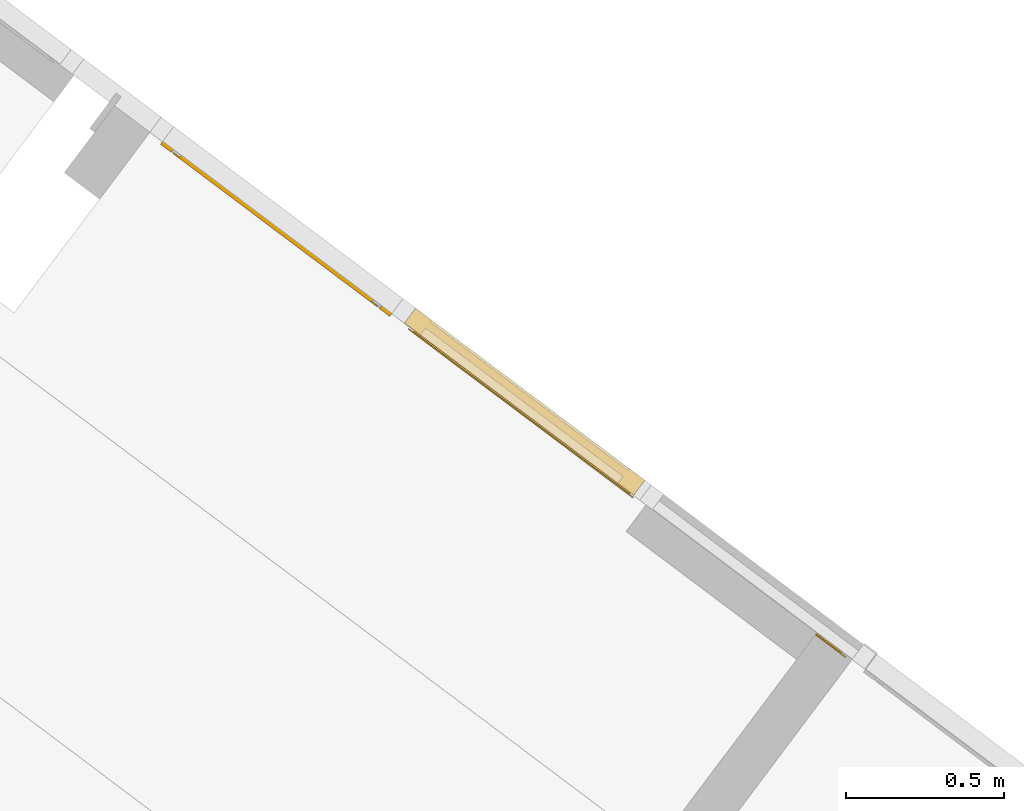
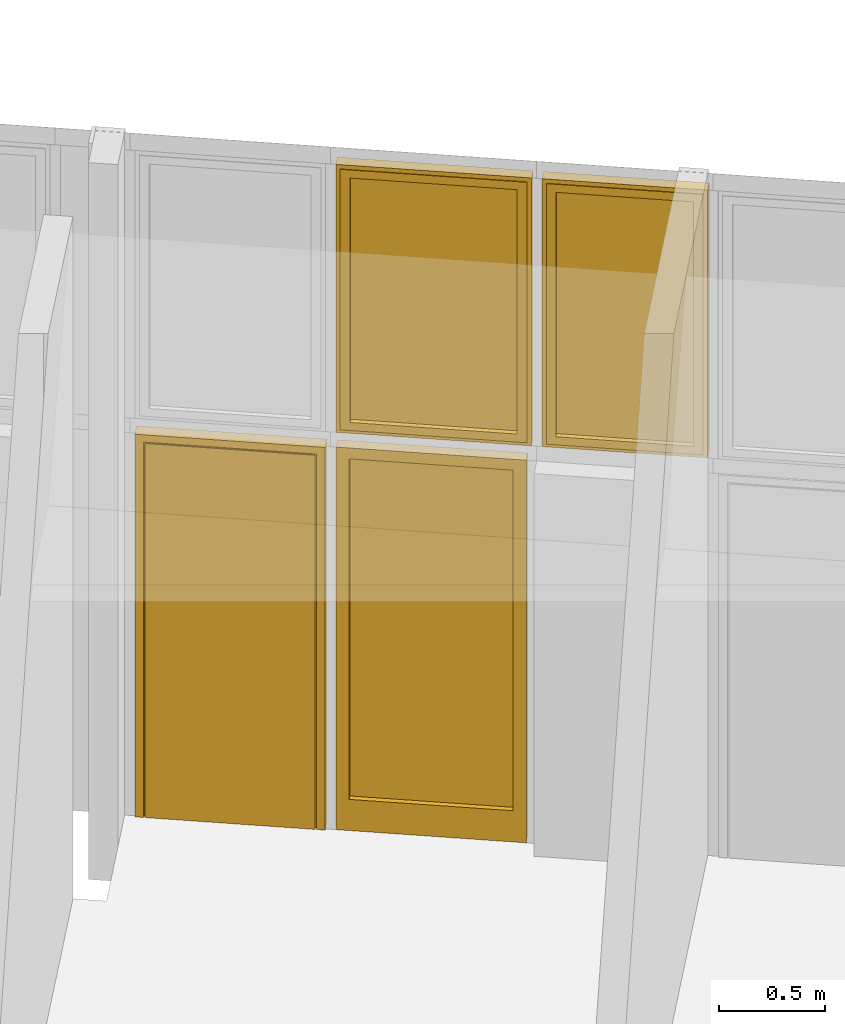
# One storey, part 15 of 18: 3 windows, 1 door, 2 elements without a shape of their own.
"""IFC2X3 building model written with IfcOpenShell, lengths in metres."""

from ifc_helpers import new_model, entity, si_unit, converted_unit, derived_unit, direction, frame, origin, place, context, subcontext, project, spatial, faceted_brep, source, transform, mapped, material, material_list, type_object, type_shapes, element, aggregate, save


model = new_model("IFC2X3")

# Units and contexts
model_context = context("Model", 3, precision=1e-05, world=origin(), true_north=direction((6.123031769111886e-17, 1.0)))
body_context = subcontext(model_context, "Body", "Model", "MODEL_VIEW")
ifc_project = project(units=[si_unit("LENGTHUNIT", "METRE"), si_unit("AREAUNIT", "SQUARE_METRE"), si_unit("VOLUMEUNIT", "CUBIC_METRE"), converted_unit("PLANEANGLEUNIT", "DEGREE", entity("IfcRatioMeasure", 0.017453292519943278), si_unit("PLANEANGLEUNIT", "RADIAN"), dimensions=[0, 0, 0, 0, 0, 0, 0]), si_unit("MASSUNIT", "GRAM", prefix="KILO"), derived_unit("MASSDENSITYUNIT", [(si_unit("MASSUNIT", "GRAM", prefix="KILO"), 1), (si_unit("LENGTHUNIT", "METRE"), -3)]), derived_unit("IONCONCENTRATIONUNIT", [(si_unit("MASSUNIT", "GRAM", prefix="KILO"), 1), (si_unit("LENGTHUNIT", "METRE"), -3)]), derived_unit("MOMENTOFINERTIAUNIT", [(si_unit("LENGTHUNIT", "METRE"), 4)]), si_unit("TIMEUNIT", "SECOND"), si_unit("FREQUENCYUNIT", "HERTZ"), si_unit("THERMODYNAMICTEMPERATUREUNIT", "DEGREE_CELSIUS"), derived_unit("THERMALTRANSMITTANCEUNIT", [(si_unit("MASSUNIT", "GRAM", prefix="KILO"), 1), (si_unit("THERMODYNAMICTEMPERATUREUNIT", "KELVIN"), -1), (si_unit("TIMEUNIT", "SECOND"), -3)]), derived_unit("THERMALCONDUCTANCEUNIT", [(si_unit("MASSUNIT", "GRAM", prefix="KILO"), 1), (si_unit("THERMODYNAMICTEMPERATUREUNIT", "KELVIN"), -1), (si_unit("TIMEUNIT", "SECOND"), -3), (si_unit("LENGTHUNIT", "METRE"), 1)]), derived_unit("VOLUMETRICFLOWRATEUNIT", [(si_unit("LENGTHUNIT", "METRE"), 3), (si_unit("TIMEUNIT", "SECOND"), -1)]), derived_unit("MASSFLOWRATEUNIT", [(si_unit("MASSUNIT", "GRAM", prefix="KILO"), 1), (si_unit("TIMEUNIT", "SECOND"), -1)]), derived_unit("ROTATIONALFREQUENCYUNIT", [(si_unit("TIMEUNIT", "SECOND"), -1)]), si_unit("ELECTRICCURRENTUNIT", "AMPERE"), si_unit("ELECTRICVOLTAGEUNIT", "VOLT"), si_unit("POWERUNIT", "WATT"), si_unit("FORCEUNIT", "NEWTON", prefix="KILO"), si_unit("ILLUMINANCEUNIT", "LUX"), si_unit("LUMINOUSFLUXUNIT", "LUMEN"), si_unit("LUMINOUSINTENSITYUNIT", "CANDELA"), derived_unit("USERDEFINED", [(si_unit("MASSUNIT", "GRAM", prefix="KILO"), -1), (si_unit("LENGTHUNIT", "METRE"), -2), (si_unit("TIMEUNIT", "SECOND"), 3), (si_unit("LUMINOUSFLUXUNIT", "LUMEN"), 1)]), derived_unit("USERDEFINED", [(si_unit("MASSUNIT", "GRAM", prefix="KILO"), 1), (si_unit("TIMEUNIT", "SECOND"), -3), (si_unit("LENGTHUNIT", "METRE"), 3), (si_unit("ELECTRICCURRENTUNIT", "AMPERE"), -2)]), derived_unit("SOUNDPOWERUNIT", [(si_unit("MASSUNIT", "GRAM", prefix="KILO"), 1), (si_unit("TIMEUNIT", "SECOND"), -3), (si_unit("LENGTHUNIT", "METRE"), 2)]), derived_unit("SOUNDPRESSUREUNIT", [(si_unit("MASSUNIT", "GRAM", prefix="KILO"), 1), (si_unit("LENGTHUNIT", "METRE"), -1), (si_unit("TIMEUNIT", "SECOND"), -2)]), derived_unit("LINEARVELOCITYUNIT", [(si_unit("LENGTHUNIT", "METRE"), 1), (si_unit("TIMEUNIT", "SECOND"), -1)]), si_unit("PRESSUREUNIT", "PASCAL"), derived_unit("USERDEFINED", [(si_unit("MASSUNIT", "GRAM", prefix="KILO"), 1), (si_unit("LENGTHUNIT", "METRE"), -2), (si_unit("TIMEUNIT", "SECOND"), -2)]), derived_unit("LINEARFORCEUNIT", [(si_unit("MASSUNIT", "GRAM", prefix="KILO"), 1), (si_unit("TIMEUNIT", "SECOND"), -2)]), derived_unit("PLANARFORCEUNIT", [(si_unit("MASSUNIT", "GRAM", prefix="KILO"), 1), (si_unit("LENGTHUNIT", "METRE"), -1), (si_unit("TIMEUNIT", "SECOND"), -2)]), derived_unit("SPECIFICHEATCAPACITYUNIT", [(si_unit("THERMODYNAMICTEMPERATUREUNIT", "KELVIN"), -1), (si_unit("LENGTHUNIT", "METRE"), 2), (si_unit("TIMEUNIT", "SECOND"), -2)]), derived_unit("HEATINGVALUEUNIT", [(si_unit("LENGTHUNIT", "METRE"), 2), (si_unit("TIMEUNIT", "SECOND"), -2)]), derived_unit("VAPORPERMEABILITYUNIT", [(si_unit("LENGTHUNIT", "METRE"), -1), (si_unit("TIMEUNIT", "SECOND"), 1)]), derived_unit("DYNAMICVISCOSITYUNIT", [(si_unit("MASSUNIT", "GRAM", prefix="KILO"), 1), (si_unit("TIMEUNIT", "SECOND"), -1), (si_unit("LENGTHUNIT", "METRE"), -1)]), derived_unit("THERMALEXPANSIONCOEFFICIENTUNIT", [(si_unit("THERMODYNAMICTEMPERATUREUNIT", "KELVIN"), -1)]), derived_unit("MODULUSOFELASTICITYUNIT", [(si_unit("MASSUNIT", "GRAM", prefix="KILO"), 1), (si_unit("LENGTHUNIT", "METRE"), -1), (si_unit("TIMEUNIT", "SECOND"), -2)]), derived_unit("ISOTHERMALMOISTURECAPACITYUNIT", [(si_unit("LENGTHUNIT", "METRE"), 3), (si_unit("MASSUNIT", "GRAM", prefix="KILO"), -1)]), derived_unit("MOISTUREDIFFUSIVITYUNIT", [(si_unit("TIMEUNIT", "SECOND"), -1), (si_unit("LENGTHUNIT", "METRE"), 2)])], contexts=[model_context])

# Site, building, storey
site_placement = place(None, frame((0.0, 0.0, 235.0), z_axis=(0.0, 0.0, 1.0), x_axis=(-0.7996477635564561, 0.6004693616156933, 0.0)))
site = spatial("IfcSite", under=ifc_project, at=site_placement, Name="Default", CompositionType="ELEMENT")
building_placement = place(site_placement, origin())
building = spatial("IfcBuilding", under=site, at=building_placement, CompositionType="ELEMENT")
storey_placement = place(building_placement, frame((0.0, 0.0, -4.459999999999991)))
storey = spatial("IfcBuildingStorey", under=building, at=storey_placement, Name="PS1- Vestuari", CompositionType="ELEMENT", Elevation=-4.459999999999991)

# Curtain wall, windows
curtain_wall_type = type_object("IfcCurtainWallType", Name="Muro cortina:MC- EXT- AL6", PredefinedType="NOTDEFINED")
curtain_wall_1_placement = place(storey_placement, frame((0.0, 0.0, 4.459999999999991)))
curtain_wall_1 = element("IfcCurtainWall", 1, at=curtain_wall_1_placement, inside=storey, type_object=curtain_wall_type, Name="Muro cortina:MC- EXT- AL6", ObjectType="Muro cortina:MC- EXT- AL6")
ifc_material_1 = material(Name="_Vidre")
ifc_material_2 = material(Name="_Alumini- T1- Perfil")
ifc_material_list_1 = material_list([ifc_material_1, ifc_material_2])
window_style_1 = type_object("IfcWindowStyle", Name="MC- Alu- Conjunt finestra basculant- 68x68 cm:MC- Alu- Conjunt finestra basculant- 68x68 cm", ConstructionType="NOTDEFINED", OperationType="NOTDEFINED", ParameterTakesPrecedence=False, Sizeable=False, material=ifc_material_list_1)
shared_shape_1 = source(origin(), body_context, "Body", "Brep", [
    faceted_brep([(0.342911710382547, -0.03559830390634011, 0.051999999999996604), (-0.3429117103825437, -0.03559830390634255, 0.051999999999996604), (-0.3429117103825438, -0.011598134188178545, 0.051999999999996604), (0.3429117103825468, -0.01159813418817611, 0.051999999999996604), (0.342911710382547, -0.03559830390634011, 1.4953027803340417), (0.3429117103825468, -0.01159813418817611, 1.4953027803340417), (-0.3429117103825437, -0.011598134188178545, 1.4953027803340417), (-0.3429117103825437, -0.03559830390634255, 1.4953027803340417)], [[[0, 1, 2, 3]], [[4, 0, 3, 5]], [[5, 3, 2, 6]], [[6, 2, 1, 7]], [[7, 1, 0, 4]], [[4, 5, 6, 7]]]),
    faceted_brep([(-0.32721088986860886, -0.009998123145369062, 1.4796019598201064), (-0.3272108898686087, -0.009998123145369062, 0.06789804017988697), (-0.3272108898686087, -0.00799810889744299, 0.06789804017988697), (-0.3272108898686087, -0.00799810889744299, 1.4796019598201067), (-0.3561089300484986, -0.007998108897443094, 1.5084999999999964), (0.3561089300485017, -0.007998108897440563, 1.5084999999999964), (0.3561089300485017, -0.007998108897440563, 0.03899999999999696), (-0.3561089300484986, -0.007998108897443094, 0.03899999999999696), (0.3272108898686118, -0.007998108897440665, 1.4796019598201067), (0.3272108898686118, -0.007998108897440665, 0.06789804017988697), (0.3272108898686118, -0.009998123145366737, 0.06789804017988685), (0.32721088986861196, -0.009998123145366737, 1.4796019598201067), (0.3429117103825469, -0.009998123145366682, 1.4953027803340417), (-0.3429117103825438, -0.009998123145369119, 1.4953027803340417), (-0.3429117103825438, -0.009998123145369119, 0.05219721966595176), (0.3429117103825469, -0.009998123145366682, 0.05219721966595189), (-0.34291171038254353, -0.0407998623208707, 1.4953027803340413), (-0.34291171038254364, -0.0407998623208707, 0.05219721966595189), (0.34291171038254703, -0.04079986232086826, 0.05219721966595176), (0.34291171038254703, -0.04079986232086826, 1.4953027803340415), (0.32721088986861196, -0.04079986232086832, 1.4796019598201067), (-0.3272108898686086, -0.04079986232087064, 1.4796019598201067), (-0.3272108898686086, -0.04079986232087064, 0.06789804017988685), (0.32721088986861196, -0.04079986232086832, 0.06789804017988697), (-0.32721088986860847, -0.06800005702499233, 1.4796019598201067), (-0.32721088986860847, -0.06800005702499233, 0.06789804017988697), (0.3272108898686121, -0.06800005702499, 0.06789804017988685), (0.327210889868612, -0.06800005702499, 1.4796019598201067), (0.37361289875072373, -0.06800005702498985, 1.5260039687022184), (-0.3736128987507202, -0.0680000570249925, 1.5260039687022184), (-0.3736128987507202, -0.0680000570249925, 0.021496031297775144), (0.37361289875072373, -0.06800005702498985, 0.021496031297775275), (-0.3736128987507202, -0.0645000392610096, 1.5260039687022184), (-0.3736128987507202, -0.0645000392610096, 0.021496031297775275), (0.37361289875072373, -0.06450003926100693, 0.021496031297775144), (0.37361289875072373, -0.06450003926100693, 1.5260039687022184), (0.3561089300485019, -0.06450003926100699, 1.5084999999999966), (-0.35610893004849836, -0.06450003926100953, 1.5084999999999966), (-0.35610893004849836, -0.06450003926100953, 0.03899999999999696), (0.3561089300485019, -0.06450003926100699, 0.03899999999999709)], [[[0, 1, 2, 3]], [[4, 5, 6, 7], [8, 3, 2, 9]], [[1, 10, 9, 2]], [[0, 11, 10, 1], [12, 13, 14, 15]], [[16, 17, 14, 13]], [[17, 18, 15, 14]], [[16, 19, 18, 17], [20, 21, 22, 23]], [[24, 25, 22, 21]], [[25, 26, 23, 22]], [[24, 27, 26, 25], [28, 29, 30, 31]], [[32, 33, 30, 29]], [[33, 34, 31, 30]], [[32, 35, 34, 33], [36, 37, 38, 39]], [[4, 7, 38, 37]], [[7, 6, 39, 38]], [[10, 11, 8, 9]], [[18, 19, 12, 15]], [[26, 27, 20, 23]], [[34, 35, 28, 31]], [[6, 5, 36, 39]], [[11, 0, 3, 8]], [[19, 16, 13, 12]], [[27, 24, 21, 20]], [[35, 32, 29, 28]], [[5, 4, 37, 36]]], outer=[[True], [True, False], [True], [False, True], [True], [True], [True, False], [True], [True], [False, True], [True], [True], [True, False], [True], [True], [True], [True], [True], [True], [True], [True], [True], [True], [True], [True]]),
    faceted_brep([(0.33219318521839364, 0.0, 1.484693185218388), (0.3321931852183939, 0.0, 0.06280681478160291), (0.3321931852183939, -0.0040000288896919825, 0.06280681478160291), (0.3321931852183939, -0.0040000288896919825, 1.4846931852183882), (-0.3321931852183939, -0.0040000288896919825, 1.4846931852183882), (-0.3321931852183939, -0.0040000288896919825, 0.06280681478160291), (0.3675998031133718, -0.0040000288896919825, 1.5200998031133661), (-0.3675998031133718, -0.0040000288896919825, 1.5200998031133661), (-0.3675998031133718, -0.0040000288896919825, 0.02740019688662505), (0.3675998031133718, -0.0040000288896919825, 0.027400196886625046), (-0.3321931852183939, 0.0, 0.06280681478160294), (-0.33219318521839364, 0.0, 1.484693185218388), (-0.3949999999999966, 0.0, 1.547499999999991), (0.3949999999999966, 0.0, 1.547499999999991), (0.3949999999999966, 0.0, 0.0), (-0.3949999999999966, 0.0, 0.0), (0.3949999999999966, -0.05999999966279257, 1.547499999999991), (0.3949999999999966, -0.05999999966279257, 0.0), (-0.3949999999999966, -0.05999999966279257, 0.0), (-0.3949999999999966, -0.05999999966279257, 1.547499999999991), (-0.36759980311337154, -0.05999999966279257, 1.520099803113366), (0.36759980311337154, -0.05999999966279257, 1.520099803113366), (0.36759980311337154, -0.05999999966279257, 0.02740019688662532), (-0.36759980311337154, -0.05999999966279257, 0.027400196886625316)], [[[0, 1, 2, 3]], [[4, 3, 2, 5], [6, 7, 8, 9]], [[1, 10, 5, 2]], [[0, 11, 10, 1], [12, 13, 14, 15]], [[16, 17, 14, 13]], [[17, 18, 15, 14]], [[16, 19, 18, 17], [20, 21, 22, 23]], [[6, 9, 22, 21]], [[9, 8, 23, 22]], [[10, 11, 4, 5]], [[18, 19, 12, 15]], [[8, 7, 20, 23]], [[11, 0, 3, 4]], [[19, 16, 13, 12]], [[7, 6, 21, 20]]], outer=[[True], [False, True], [True], [False, True], [True], [True], [True, False], [True], [True], [True], [True], [True], [True], [True], [True]]),
])
type_shapes(window_style_1, [shared_shape_1])
window_1_placement = place(curtain_wall_1_placement, frame((51.36114768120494, -40.46519175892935, -2.164999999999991), z_axis=(0.0, 0.0, 1.0), x_axis=(-1.0, 0.0, 0.0)))
window_1 = element("IfcWindow", 2, at=window_1_placement, type_object=window_style_1, material=ifc_material_list_1, Name="MC- Alu- Conjunt finestra basculant- 68x68 cm:MC- Alu- Conjunt finestra basculant- 68x68 cm", ObjectType="MC- Alu- Conjunt finestra basculant- 68x68 cm:MC- Alu- Conjunt finestra basculant- 68x68 cm", OverallHeight=1.5474999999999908, OverallWidth=0.7899999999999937, context=body_context, shape_type="MappedRepresentation", body=[
    mapped(shared_shape_1, transform((0.0, 0.0, 0.0), scale=1.0)),
])
window_style_2 = type_object("IfcWindowStyle", Name="MC- Alu- Conjunt finestra basculant- 68x68 cm:MC- Alu- Conjunt finestra basculant- 68x68 cm", ConstructionType="NOTDEFINED", OperationType="NOTDEFINED", ParameterTakesPrecedence=False, Sizeable=False, material=ifc_material_list_1)
shared_shape_2 = source(origin(), body_context, "Body", "Brep", [
    faceted_brep([(0.41391171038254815, -0.03559830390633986, 0.051999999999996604), (-0.41391171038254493, -0.0355983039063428, 0.051999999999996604), (-0.413911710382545, -0.0115981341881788, 0.051999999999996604), (0.41391171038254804, -0.01159813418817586, 0.051999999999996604), (0.41391171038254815, -0.035598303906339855, 1.4953027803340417), (0.41391171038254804, -0.01159813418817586, 1.4953027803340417), (-0.41391171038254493, -0.0115981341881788, 1.4953027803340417), (-0.41391171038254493, -0.0355983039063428, 1.4953027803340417)], [[[0, 1, 2, 3]], [[4, 0, 3, 5]], [[5, 3, 2, 6]], [[6, 2, 1, 7]], [[7, 1, 0, 4]], [[4, 5, 6, 7]]]),
    faceted_brep([(-0.39821088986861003, -0.009998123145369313, 1.4796019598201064), (-0.39821088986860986, -0.009998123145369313, 0.06789804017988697), (-0.39821088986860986, -0.007998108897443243, 0.06789804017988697), (-0.39821088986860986, -0.007998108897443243, 1.4796019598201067), (-0.42710893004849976, -0.007998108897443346, 1.5084999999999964), (0.42710893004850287, -0.007998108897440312, 1.5084999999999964), (0.42710893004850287, -0.007998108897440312, 0.03899999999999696), (-0.42710893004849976, -0.007998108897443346, 0.03899999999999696), (0.39821088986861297, -0.007998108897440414, 1.4796019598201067), (0.39821088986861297, -0.007998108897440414, 0.06789804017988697), (0.39821088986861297, -0.009998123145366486, 0.06789804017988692), (0.39821088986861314, -0.009998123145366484, 1.4796019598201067), (0.4139117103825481, -0.009998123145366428, 1.4953027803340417), (-0.413911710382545, -0.00999812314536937, 1.4953027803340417), (-0.413911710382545, -0.00999812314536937, 0.05219721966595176), (0.4139117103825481, -0.009998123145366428, 0.05219721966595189), (-0.4139117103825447, -0.040799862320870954, 1.4953027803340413), (-0.4139117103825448, -0.040799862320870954, 0.05219721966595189), (0.4139117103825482, -0.04079986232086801, 0.05219721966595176), (0.4139117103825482, -0.04079986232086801, 1.4953027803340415), (0.39821088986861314, -0.04079986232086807, 1.4796019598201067), (-0.39821088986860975, -0.04079986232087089, 1.4796019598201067), (-0.39821088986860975, -0.04079986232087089, 0.06789804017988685), (0.39821088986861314, -0.04079986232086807, 0.06789804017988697), (-0.3982108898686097, -0.06800005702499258, 1.4796019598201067), (-0.3982108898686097, -0.06800005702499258, 0.06789804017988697), (0.39821088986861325, -0.06800005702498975, 0.06789804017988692), (0.3982108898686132, -0.06800005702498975, 1.4796019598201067), (0.4446128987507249, -0.06800005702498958, 1.5260039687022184), (-0.4446128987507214, -0.06800005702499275, 1.5260039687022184), (-0.4446128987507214, -0.06800005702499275, 0.021496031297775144), (0.4446128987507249, -0.06800005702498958, 0.021496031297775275), (-0.4446128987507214, -0.06450003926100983, 1.5260039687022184), (-0.4446128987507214, -0.06450003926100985, 0.021496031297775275), (0.4446128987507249, -0.06450003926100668, 0.021496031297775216), (0.4446128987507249, -0.06450003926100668, 1.5260039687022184), (0.4271089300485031, -0.06450003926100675, 1.5084999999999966), (-0.4271089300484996, -0.06450003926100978, 1.5084999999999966), (-0.4271089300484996, -0.06450003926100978, 0.03899999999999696), (0.4271089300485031, -0.06450003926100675, 0.03899999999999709)], [[[0, 1, 2, 3]], [[4, 5, 6, 7], [8, 3, 2, 9]], [[1, 10, 9, 2]], [[0, 11, 10, 1], [12, 13, 14, 15]], [[16, 17, 14, 13]], [[17, 18, 15, 14]], [[16, 19, 18, 17], [20, 21, 22, 23]], [[24, 25, 22, 21]], [[25, 26, 23, 22]], [[24, 27, 26, 25], [28, 29, 30, 31]], [[32, 33, 30, 29]], [[33, 34, 31, 30]], [[32, 35, 34, 33], [36, 37, 38, 39]], [[4, 7, 38, 37]], [[7, 6, 39, 38]], [[10, 11, 8, 9]], [[18, 19, 12, 15]], [[26, 27, 20, 23]], [[34, 35, 28, 31]], [[6, 5, 36, 39]], [[11, 0, 3, 8]], [[19, 16, 13, 12]], [[27, 24, 21, 20]], [[35, 32, 29, 28]], [[5, 4, 37, 36]]], outer=[[True], [True, False], [True], [False, True], [True], [True], [True, False], [True], [True], [False, True], [True], [True], [True, False], [True], [True], [True], [True], [True], [True], [True], [True], [True], [True], [True], [True]]),
    faceted_brep([(0.4031931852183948, 0.0, 1.484693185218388), (0.4031931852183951, 0.0, 0.06280681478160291), (0.4031931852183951, -0.0040000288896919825, 0.06280681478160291), (0.4031931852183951, -0.0040000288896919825, 1.4846931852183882), (-0.4031931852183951, -0.0040000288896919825, 1.4846931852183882), (-0.4031931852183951, -0.0040000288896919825, 0.06280681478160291), (0.438599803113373, -0.0040000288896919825, 1.5200998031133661), (-0.438599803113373, -0.0040000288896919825, 1.5200998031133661), (-0.438599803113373, -0.0040000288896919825, 0.02740019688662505), (0.438599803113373, -0.0040000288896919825, 0.027400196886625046), (-0.4031931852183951, 0.0, 0.06280681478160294), (-0.403193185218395, 0.0, 1.4846931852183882), (-0.46599999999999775, 0.0, 1.547499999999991), (0.46599999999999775, 0.0, 1.547499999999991), (0.46599999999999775, 0.0, 0.0), (-0.46599999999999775, 0.0, 0.0), (0.46599999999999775, -0.05999999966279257, 1.547499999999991), (0.46599999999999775, -0.05999999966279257, 0.0), (-0.46599999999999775, -0.05999999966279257, 0.0), (-0.46599999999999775, -0.05999999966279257, 1.547499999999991), (-0.4385998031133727, -0.05999999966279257, 1.520099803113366), (0.4385998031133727, -0.05999999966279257, 1.520099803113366), (0.4385998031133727, -0.05999999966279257, 0.02740019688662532), (-0.4385998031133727, -0.05999999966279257, 0.027400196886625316)], [[[0, 1, 2, 3]], [[4, 3, 2, 5], [6, 7, 8, 9]], [[1, 10, 5, 2]], [[0, 11, 10, 1], [12, 13, 14, 15]], [[16, 17, 14, 13]], [[17, 18, 15, 14]], [[16, 19, 18, 17], [20, 21, 22, 23]], [[6, 9, 22, 21]], [[9, 8, 23, 22]], [[10, 11, 4, 5]], [[18, 19, 12, 15]], [[8, 7, 20, 23]], [[11, 0, 3, 4]], [[19, 16, 13, 12]], [[7, 6, 21, 20]]], outer=[[True], [False, True], [True], [False, True], [True], [True], [True, False], [True], [True], [True], [True], [True], [True], [True], [True]]),
])
type_shapes(window_style_2, [shared_shape_2])
window_2_placement = place(curtain_wall_1_placement, frame((52.27214768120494, -40.465191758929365, -2.164999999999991), z_axis=(0.0, 0.0, 1.0), x_axis=(-1.0, 0.0, 0.0)))
window_2 = element("IfcWindow", 3, at=window_2_placement, type_object=window_style_2, material=ifc_material_list_1, Name="MC- Alu- Conjunt finestra basculant- 68x68 cm:MC- Alu- Conjunt finestra basculant- 68x68 cm", ObjectType="MC- Alu- Conjunt finestra basculant- 68x68 cm:MC- Alu- Conjunt finestra basculant- 68x68 cm", OverallHeight=1.5474999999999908, OverallWidth=0.931999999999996, context=body_context, shape_type="MappedRepresentation", body=[
    mapped(shared_shape_2, transform((0.0, 0.0, 0.0), scale=1.0)),
])
aggregate(curtain_wall_1, [window_1, window_2])

# Curtain wall, window, door
curtain_wall_2_placement = place(storey_placement, frame((0.0, 0.0, 4.459999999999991)))
curtain_wall_2 = element("IfcCurtainWall", 4, at=curtain_wall_2_placement, inside=storey, type_object=curtain_wall_type, Name="Muro cortina:MC- EXT- AL6", ObjectType="Muro cortina:MC- EXT- AL6")
ifc_material_list_2 = material_list([ifc_material_2, ifc_material_1])
window_style_3 = type_object("IfcWindowStyle", Name="MC- Alu- Conjunt vidre fix- 62x60 cm- +15cm:MC- Alu- Conjunt vidre fix- 62x60 cm- +15cm", ConstructionType="NOTDEFINED", OperationType="NOTDEFINED", ParameterTakesPrecedence=False, Sizeable=False, material=ifc_material_list_2)
shared_shape_3 = source(origin(), body_context, "Body", "Brep", [
    faceted_brep([(-0.45350000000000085, -0.05999999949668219, 0.0), (-0.45350000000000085, -0.05999999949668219, 2.209941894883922), (-0.45350000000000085, 0.0, 2.2099418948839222), (-0.45350000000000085, 0.0, 0.0), (0.45350000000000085, 0.0, 0.0), (0.45350000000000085, -0.05999999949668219, 0.0), (0.39069318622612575, 0.0, 0.18000284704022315), (0.39069318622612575, 0.0, 2.1471350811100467), (-0.3906931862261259, 0.0, 2.1471350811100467), (-0.39069318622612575, 0.0, 0.1800028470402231), (0.45350000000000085, 0.0, 2.209941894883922), (0.45350000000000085, -0.05999999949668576, 2.209941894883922), (-0.39069603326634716, -0.05999999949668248, 0.18000000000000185), (-0.39069603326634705, -0.05999999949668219, 2.147137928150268), (0.39069603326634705, -0.05999999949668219, 2.147137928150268), (0.39069603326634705, -0.05999999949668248, 0.18000000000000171), (-0.39069318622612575, -0.00760005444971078, 0.180002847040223), (0.39069318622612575, -0.00760005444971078, 0.18000284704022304), (-0.3906931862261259, -0.007600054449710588, 2.1471350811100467), (0.3906931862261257, -0.007600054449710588, 2.1471350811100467), (-0.40469328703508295, -0.007600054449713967, 2.161135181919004), (-0.40469328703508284, -0.0076000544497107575, 0.16619603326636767), (0.4046932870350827, -0.0076000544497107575, 0.16619603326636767), (0.4046932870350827, -0.007600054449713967, 2.161135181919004), (0.4046932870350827, -0.03160022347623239, 0.16619603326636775), (0.4046932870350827, -0.03160022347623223, 2.1611351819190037), (-0.40469328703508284, -0.03160022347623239, 0.16619603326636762), (-0.40469328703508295, -0.03160022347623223, 2.161135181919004), (0.39069603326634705, -0.03160022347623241, 0.18000000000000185), (0.3906960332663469, -0.03160022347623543, 2.147137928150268), (-0.3906960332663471, -0.03160022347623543, 2.147137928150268), (-0.39069603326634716, -0.03160022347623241, 0.1800000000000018)], [[[0, 1, 2, 3]], [[4, 5, 0, 3]], [[6, 7, 8, 9], [2, 10, 4, 3]], [[0, 5, 11, 1], [12, 13, 14, 15]], [[11, 5, 4, 10]], [[9, 16, 17, 6]], [[18, 16, 9, 8]], [[7, 6, 17, 19]], [[16, 18, 19, 17], [20, 21, 22, 23]], [[22, 24, 25, 23]], [[21, 26, 24, 22]], [[26, 21, 20, 27]], [[25, 24, 26, 27], [28, 29, 30, 31]], [[31, 12, 15, 28]], [[13, 12, 31, 30]], [[29, 28, 15, 14]], [[1, 11, 10, 2]], [[8, 7, 19, 18]], [[20, 23, 25, 27]], [[30, 29, 14, 13]]], outer=[[True], [True], [False, True], [True, False], [True], [True], [True], [True], [False, True], [True], [True], [True], [True, False], [True], [True], [True], [True], [True], [True], [True]]),
    faceted_brep([(0.4046932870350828, -0.007600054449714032, 0.1661960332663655), (0.4046932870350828, -0.03160022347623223, 0.1661960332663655), (-0.4046932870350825, -0.03160022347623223, 0.1661960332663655), (-0.4046932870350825, -0.007600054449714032, 0.1661960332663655), (0.4046932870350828, -0.007600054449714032, 2.160941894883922), (-0.4046932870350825, -0.007600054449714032, 2.160941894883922), (-0.4046932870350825, -0.03160022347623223, 2.160941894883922), (0.4046932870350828, -0.03160022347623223, 2.160941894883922)], [[[0, 1, 2, 3]], [[4, 0, 3, 5]], [[5, 3, 2, 6]], [[6, 2, 1, 7]], [[7, 1, 0, 4]], [[4, 5, 6, 7]]]),
])
type_shapes(window_style_3, [shared_shape_3])
window_3_placement = place(curtain_wall_2_placement, frame((52.28464768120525, -40.46519175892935, -4.459999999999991), z_axis=(0.0, 0.0, 1.0), x_axis=(-1.0, 0.0, 0.0)))
window_3 = element("IfcWindow", 5, at=window_3_placement, type_object=window_style_3, material=ifc_material_list_2, Name="MC- Alu- Conjunt vidre fix- 62x60 cm- +15cm:MC- Alu- Conjunt vidre fix- 62x60 cm- +15cm", ObjectType="MC- Alu- Conjunt vidre fix- 62x60 cm- +15cm:MC- Alu- Conjunt vidre fix- 62x60 cm- +15cm", OverallHeight=2.209941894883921, OverallWidth=0.9070000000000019, context=body_context, shape_type="MappedRepresentation", body=[
    mapped(shared_shape_3, transform((0.0, 0.0, 0.0), scale=1.0)),
])
door_style = type_object("IfcDoorStyle", Name="MC- Alu- Conjunt porta- 70x60 cm- opacat:MC- Alu- Conjunt porta- 70x60 cm- opacat", ConstructionType="NOTDEFINED", OperationType="NOTDEFINED", ParameterTakesPrecedence=False, Sizeable=False, material=ifc_material_2)
shared_shape_4 = source(origin(), body_context, "Body", "Brep", [
    faceted_brep([(-0.3762000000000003, -2.94572049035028e-07, 0.02800000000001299), (0.3762000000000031, -2.9457204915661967e-07, 0.02800000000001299), (0.3761999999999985, -0.015000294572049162, 0.02800000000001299), (-0.3762000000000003, -0.01500029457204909, 0.02800000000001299), (-0.3762000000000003, -2.9457204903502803e-07, 2.1326418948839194), (-0.3762000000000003, -0.01500029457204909, 2.1326418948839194), (0.3761999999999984, -0.015000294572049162, 2.1326418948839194), (0.3762000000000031, -2.945720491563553e-07, 2.1326418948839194)], [[[0, 1, 2, 3]], [[4, 0, 3, 5]], [[5, 3, 2, 6]], [[6, 2, 1, 7]], [[7, 1, 0, 4]], [[4, 5, 6, 7]]]),
    faceted_brep([(-0.37620000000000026, -0.06999999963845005, 0.02800000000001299), (-0.3762000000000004, -0.05499999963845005, 0.02800000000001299), (0.3761999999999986, -0.05499999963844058, 0.02800000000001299), (0.37620000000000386, -0.06999999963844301, 0.02800000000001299), (-0.37620000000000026, -0.06999999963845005, 2.1326418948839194), (0.37620000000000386, -0.06999999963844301, 2.1326418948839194), (0.3761999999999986, -0.05499999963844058, 2.1326418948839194), (-0.37620000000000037, -0.05499999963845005, 2.1326418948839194)], [[[0, 1, 2, 3]], [[4, 0, 3, 5]], [[5, 3, 2, 6]], [[6, 2, 1, 7]], [[7, 1, 0, 4]], [[4, 5, 6, 7]]]),
    faceted_brep([(-0.40420000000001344, -0.06570000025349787, 2.1606418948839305), (-0.40420000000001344, -0.06570000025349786, 0.0), (-0.4042000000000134, -0.06999999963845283, 0.0), (-0.4042000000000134, -0.06999999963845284, 2.160641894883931), (0.4042000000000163, -0.06999999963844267, 0.0), (0.4042000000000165, -0.06999999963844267, 2.160641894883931), (-0.3761999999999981, -0.06999999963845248, 0.028000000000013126), (-0.3761999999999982, -0.06999999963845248, 2.132641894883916), (0.37620000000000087, -0.06999999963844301, 2.132641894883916), (0.37620000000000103, -0.06999999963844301, 0.028000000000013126), (0.4042000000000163, -0.06570000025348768, 0.0), (0.40420000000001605, -0.06570000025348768, 2.1606418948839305), (-0.3801999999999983, -0.06570000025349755, 2.1366418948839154), (-0.3801999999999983, -0.06570000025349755, 0.024000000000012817), (0.38020000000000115, -0.06570000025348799, 0.024000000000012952), (0.38020000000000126, -0.06570000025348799, 2.136641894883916), (-0.3801999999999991, -2.945720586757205e-07, 2.1366418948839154), (-0.38019999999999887, -2.9457205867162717e-07, 0.02400000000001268), (0.3802000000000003, -2.945720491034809e-07, 0.024000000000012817), (0.38020000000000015, -2.945720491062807e-07, 2.136641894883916), (-0.3761999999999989, -2.9457205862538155e-07, 2.132641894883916), (-0.3761999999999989, -2.9457205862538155e-07, 0.02800000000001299), (0.37620000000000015, -2.9457204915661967e-07, 0.028000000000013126), (0.3762000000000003, -2.9457204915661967e-07, 2.132641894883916)], [[[0, 1, 2, 3]], [[3, 2, 4, 5], [6, 7, 8, 9]], [[1, 10, 4, 2]], [[1, 0, 11, 10], [12, 13, 14, 15]], [[16, 17, 13, 12]], [[17, 18, 14, 13]], [[17, 16, 19, 18], [20, 21, 22, 23]], [[10, 11, 5, 4]], [[18, 19, 15, 14]], [[7, 6, 21, 20]], [[6, 9, 22, 21]], [[9, 8, 23, 22]], [[11, 0, 3, 5]], [[8, 7, 20, 23]], [[19, 16, 12, 15]]]),
    faceted_brep([(-0.45350000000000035, -0.06999999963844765, 0.0), (-0.45350000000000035, 0.0, 0.0), (-0.3862000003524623, 0.0, 0.0), (-0.3862000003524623, -0.008800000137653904, 0.0), (-0.4016999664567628, -0.008800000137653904, 0.0), (-0.4016999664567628, -0.059699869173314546, 0.0), (-0.41220000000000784, -0.059699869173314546, 0.0), (-0.41220000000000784, -0.06999999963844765, 0.0), (-0.41220000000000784, -0.06999999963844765, 2.1686418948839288), (0.41220000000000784, -0.06999999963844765, 2.1686418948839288), (0.41220000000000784, -0.06999999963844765, 0.0), (0.45350000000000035, -0.06999999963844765, 0.0), (0.45350000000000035, -0.06999999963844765, 2.2099418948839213), (-0.45350000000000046, -0.06999999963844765, 2.2099418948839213), (-0.41220000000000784, -0.059699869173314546, 2.1686418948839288), (-0.4016999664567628, -0.059699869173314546, 2.1581418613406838), (0.4016999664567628, -0.059699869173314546, 2.1581418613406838), (0.4016999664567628, -0.059699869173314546, 0.0), (0.41220000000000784, -0.059699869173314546, 0.0), (0.41220000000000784, -0.059699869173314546, 2.1686418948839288), (-0.401699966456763, -0.008800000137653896, 2.1581418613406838), (-0.38620000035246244, -0.008800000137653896, 2.1426418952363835), (0.3862000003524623, -0.008800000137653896, 2.1426418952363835), (0.3862000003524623, -0.008800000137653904, 0.0), (0.4016999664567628, -0.008800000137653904, 0.0), (0.4016999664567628, -0.008800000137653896, 2.1581418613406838), (-0.3862000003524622, 0.0, 2.1426418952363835), (-0.45350000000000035, 0.0, 2.2099418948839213), (0.45350000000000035, 0.0, 2.2099418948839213), (0.45350000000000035, 0.0, 0.0), (0.3862000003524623, 0.0, 0.0), (0.3862000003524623, 0.0, 2.1426418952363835)], [[[0, 1, 2, 3, 4, 5, 6, 7]], [[7, 8, 9, 10, 11, 12, 13, 0]], [[6, 14, 8, 7]], [[5, 15, 16, 17, 18, 19, 14, 6]], [[4, 20, 15, 5]], [[3, 21, 22, 23, 24, 25, 20, 4]], [[2, 26, 21, 3]], [[1, 27, 28, 29, 30, 31, 26, 2]], [[0, 13, 27, 1]], [[11, 10, 18, 17, 24, 23, 30, 29]], [[12, 11, 29, 28]], [[31, 30, 23, 22]], [[25, 24, 17, 16]], [[19, 18, 10, 9]], [[14, 19, 9, 8]], [[20, 25, 16, 15]], [[26, 31, 22, 21]], [[13, 12, 28, 27]]]),
])
type_shapes(door_style, [shared_shape_4])
door_placement = place(curtain_wall_2_placement, frame((53.24164768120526, -40.46519175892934, -4.459999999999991), z_axis=(0.0, 0.0, 1.0), x_axis=(-1.0, 0.0, 0.0)))
door = element("IfcDoor", 6, at=door_placement, type_object=door_style, material=ifc_material_2, Name="MC- Alu- Conjunt porta- 70x60 cm- opacat:MC- Alu- Conjunt porta- 70x60 cm- opacat", ObjectType="MC- Alu- Conjunt porta- 70x60 cm- opacat:MC- Alu- Conjunt porta- 70x60 cm- opacat", OverallHeight=2.209941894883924, OverallWidth=0.9070000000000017, context=body_context, shape_type="MappedRepresentation", body=[
    mapped(shared_shape_4, transform((0.0, 0.0, 0.0), scale=1.0)),
])
aggregate(curtain_wall_2, [window_3, door])

save(model, "model.ifc")
